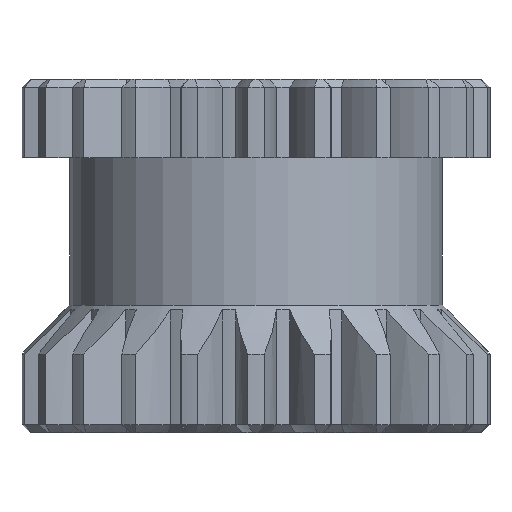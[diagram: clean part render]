
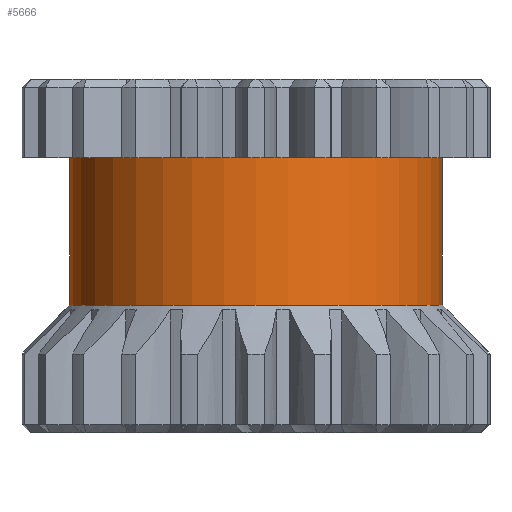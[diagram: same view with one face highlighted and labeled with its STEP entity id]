
A CAD part, front view. The second image highlights one B-rep face of the part: STEP entity #5666.
In plain terms, the highlighted cylindrical face has radius 9.5 mm (diameter 19 mm), a full revolution.
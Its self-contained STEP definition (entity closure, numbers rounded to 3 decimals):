
#324=CYLINDRICAL_SURFACE('',#6542,9.5);
#690=FACE_OUTER_BOUND('',#1053,.T.);
#1053=EDGE_LOOP('',(#4859,#4860,#4861,#4862));
#1236=LINE('',#10885,#1417);
#1417=VECTOR('',#8257,9.5);
#1928=CIRCLE('',#6472,9.5);
#1996=CIRCLE('',#6541,9.5);
#2445=VERTEX_POINT('',#10592);
#2533=VERTEX_POINT('',#10882);
#3249=EDGE_CURVE('',#2445,#2445,#1928,.T.);
#3340=EDGE_CURVE('',#2533,#2533,#1996,.T.);
#3341=EDGE_CURVE('',#2533,#2445,#1236,.T.);
#4859=ORIENTED_EDGE('',*,*,#3340,.T.);
#4860=ORIENTED_EDGE('',*,*,#3341,.T.);
#4861=ORIENTED_EDGE('',*,*,#3249,.F.);
#4862=ORIENTED_EDGE('',*,*,#3341,.F.);
#5666=ADVANCED_FACE('',(#690),#324,.T.);
#6472=AXIS2_PLACEMENT_3D('',#10593,#8114,#8115);
#6541=AXIS2_PLACEMENT_3D('',#10883,#8253,#8254);
#6542=AXIS2_PLACEMENT_3D('',#10884,#8255,#8256);
#8114=DIRECTION('center_axis',(0.,0.,-1.));
#8115=DIRECTION('ref_axis',(1.,0.,0.));
#8253=DIRECTION('center_axis',(0.,0.,-1.));
#8254=DIRECTION('ref_axis',(1.,0.,0.));
#8255=DIRECTION('center_axis',(0.,0.,-1.));
#8256=DIRECTION('ref_axis',(1.,0.,0.));
#8257=DIRECTION('',(0.,0.,-1.));
#10592=CARTESIAN_POINT('',(-9.5,0.,6.5));
#10593=CARTESIAN_POINT('Origin',(0.,0.,6.5));
#10882=CARTESIAN_POINT('',(-9.5,0.,14.));
#10883=CARTESIAN_POINT('Origin',(0.,0.,14.));
#10884=CARTESIAN_POINT('Origin',(0.,0.,10.25));
#10885=CARTESIAN_POINT('',(-9.5,0.,10.25));
